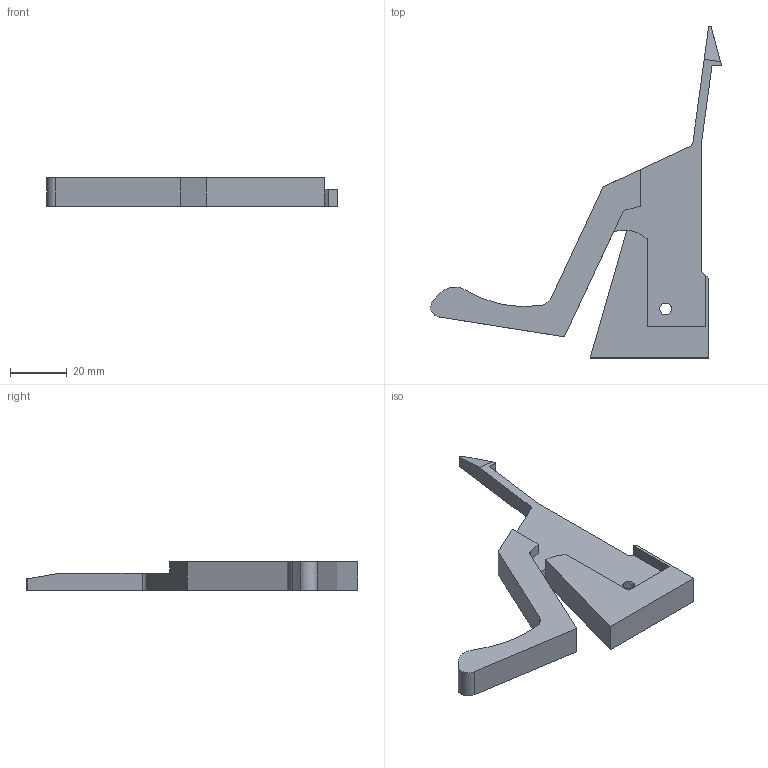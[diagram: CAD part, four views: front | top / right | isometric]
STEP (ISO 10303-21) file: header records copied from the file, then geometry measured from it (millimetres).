
FILE_DESCRIPTION (( 'STEP AP214' ), '1' );
FILE_NAME ('Kindersicherung rechts.step', '2010-10-06T09:32:39', ( 'grass' ), ( '' ), 'SwSTEP 2.0', 'SolidWorks 2010', '' );
FILE_SCHEMA (( 'AUTOMOTIVE_DESIGN' ));
Length unit declared in the file: millimetre
Products named in the file (1): Kindersicherung rechts
Bounding box: 101.99 x 116.5 x 10 mm (x, y, z)
Volume: 26724.7 mm3; surface area: 11112 mm2
Topology: 1 solids, 1 shells, 37 faces, 102 edges, 67 vertices
Faces by surface type: plane 24, cylinder 11, cone 2
Entity records: 1213 total; most frequent: CARTESIAN_POINT 210, ORIENTED_EDGE 204, DIRECTION 200, EDGE_CURVE 102, VECTOR 78, LINE 78, VERTEX_POINT 67, AXIS2_PLACEMENT_3D 61
